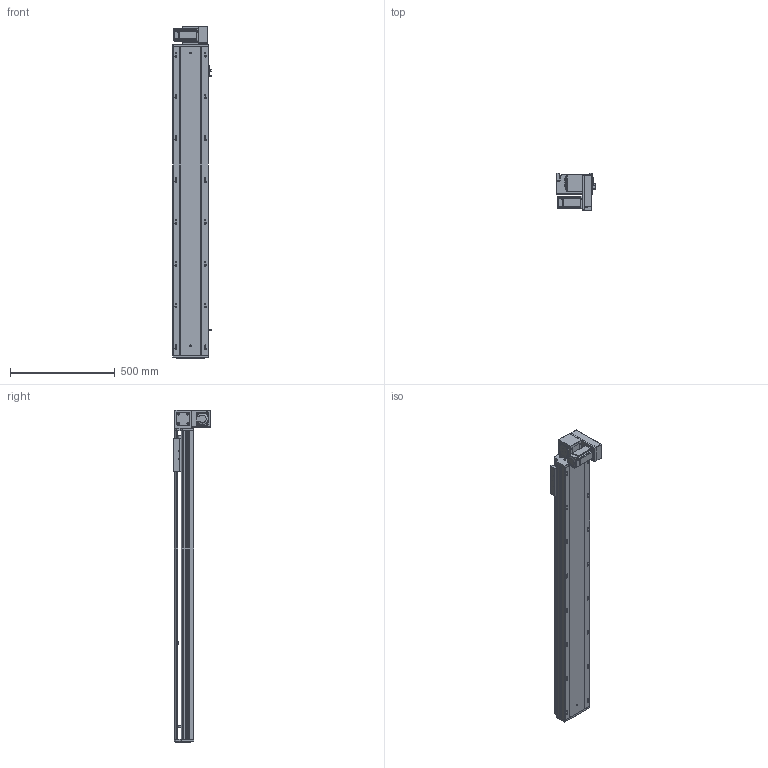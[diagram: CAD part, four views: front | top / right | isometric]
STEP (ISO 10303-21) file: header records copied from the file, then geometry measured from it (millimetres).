
FILE_DESCRIPTION (( 'STEP AP203' ), '1' );
FILE_NAME ('RY170-T-300-DR-P400W.SLDASM_1200.step', '2021-03-01T08:23:42', ( '盈信电脑' ), ( '东莞市道滘镇水果街19号' ), 'SwSTEP 2.0', 'SolidWorks 2012', '' );
FILE_SCHEMA (( 'CONFIG_CONTROL_DESIGN' ));
Length unit declared in the file: millimetre
Products named in the file (19): RY170-T-300-DR-P400W.SLDASM_1200; 15; RY170-T蹟翐M4; 滅袉蝶18-10; RY170-T-呴雄粣揤踡啣; RY170-T肮祭湍揤踡輸2; RY170-T肮祭湍揤踡輸1; RY170-T肮祭謫裔啣; RY120-T主同步轮轴承压盖; RY170同步轮电机安装板(400W); RY170肮祭謫萇儂欶; RY170翋肮祭謫釱; RY170外置感应片(200共用）; RY170肮祭謫ヶ裔啣; 覜茼ん672; RY170肮祭湍臏賑輸; RY170-T-300肮祭謫倰第裔啣-DR_1200; RY170綴裔啣; RY170-T-300肮祭謫倰第菁釱-DR_1200
Assembly tree (23 placements, depth 2):
  RY170-T-300-DR-P400W.SLDASM_1200
    RY170-T-300肮祭謫倰第菁釱-DR_1200
    RY170肮祭湍臏賑輸
    RY170-T-300肮祭謫倰第裔啣-DR_1200
    RY170綴裔啣
    覜茼ん672  x3
    RY170外置感应片(200共用）
    RY170肮祭謫ヶ裔啣
    RY170翋肮祭謫釱
    RY170同步轮电机安装板(400W)
    RY170肮祭謫萇儂欶
    RY170-T肮祭湍揤踡輸1  x2
    RY170-T肮祭湍揤踡輸2  x2
    RY120-T主同步轮轴承压盖
    RY170-T肮祭謫裔啣
    RY170-T蹟翐M4
    滅袉蝶18-10  x2
    RY170-T-呴雄粣揤踡啣
    15
Bounding box: 183.7 x 178 x 1588 mm (x, y, z)
Volume: 7753215 mm3; surface area: 2639613.8 mm2
Topology: 23 solids, 23 shells, 2806 faces, 7786 edges, 4989 vertices
Faces by surface type: plane 1266, cylinder 1258, cone 252, bspline 30
Entity records: 83781 total; most frequent: CARTESIAN_POINT 18638, ORIENTED_EDGE 13248, DIRECTION 13058, EDGE_CURVE 6624, AXIS2_PLACEMENT_3D 4599, VERTEX_POINT 4345, VECTOR 3860, LINE 3860
